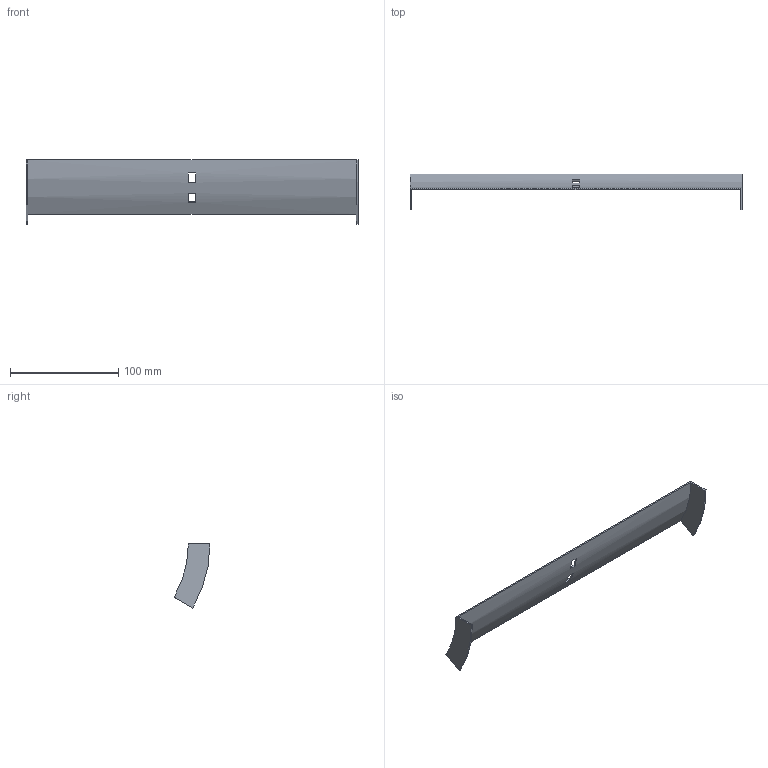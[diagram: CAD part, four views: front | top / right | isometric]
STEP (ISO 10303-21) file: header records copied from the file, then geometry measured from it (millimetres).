
FILE_DESCRIPTION (( 'STEP AP214' ), '1' );
FILE_NAME ('32N1R300.step', '2025-02-21T09:22:30', ( '' ), ( '' ), 'SwSTEP 2.0', 'SolidWorks 2023', '' );
FILE_SCHEMA (( 'AUTOMOTIVE_DESIGN' ));
Length unit declared in the file: millimetre
Products named in the file (1): 32N1R300
Bounding box: 307 x 33.2 x 59.25 mm (x, y, z)
Volume: 26927.6 mm3; surface area: 37214.8 mm2
Topology: 1 solids, 1 shells, 18 faces, 48 edges, 32 vertices
Faces by surface type: plane 14, cylinder 4
Entity records: 599 total; most frequent: DIRECTION 102, CARTESIAN_POINT 99, ORIENTED_EDGE 96, EDGE_CURVE 48, AXIS2_PLACEMENT_3D 35, LINE 32, VERTEX_POINT 32, VECTOR 32
